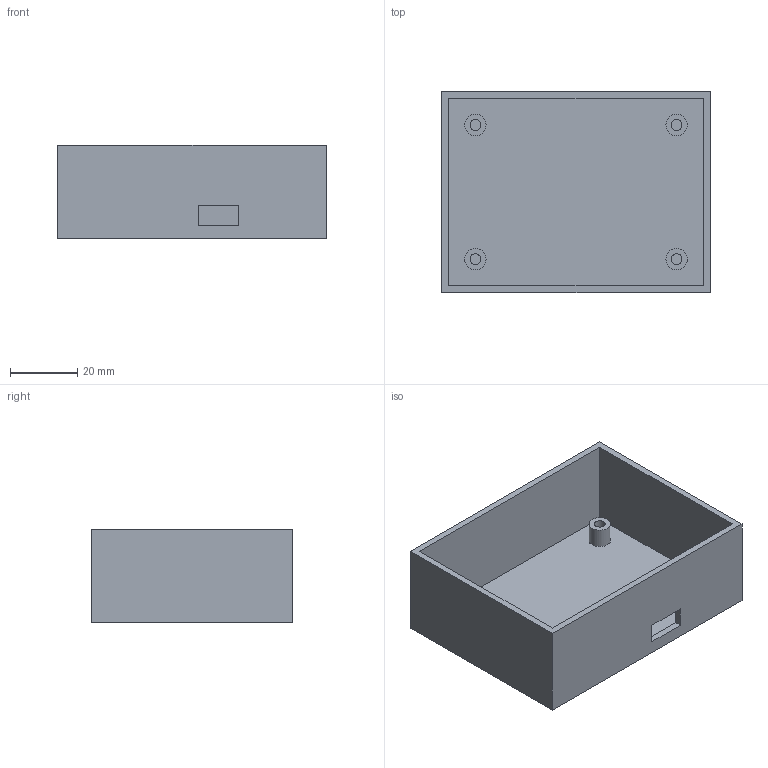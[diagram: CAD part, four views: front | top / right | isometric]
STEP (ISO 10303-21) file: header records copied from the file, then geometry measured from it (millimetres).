
FILE_DESCRIPTION(('Open CASCADE Model'),'2;1');
FILE_NAME('Open CASCADE Shape Model','2026-09-05T12:24:21',('Author'),( 'Open CASCADE'),'Open CASCADE STEP processor 7.8','build123d', 'Unknown');
FILE_SCHEMA(('AUTOMOTIVE_DESIGN { 1 0 10303 214 1 1 1 1 }'));
Length unit declared in the file: millimetre
Products named in the file (1): SOLID
Bounding box: 80 x 60 x 28 mm (x, y, z)
Volume: 24179.1 mm3; surface area: 24955.8 mm2
Topology: 1 solids, 1 shells, 31 faces, 60 edges, 40 vertices
Faces by surface type: plane 23, cylinder 8
Full cylindrical faces by diameter (mm): 3.2 x4, 6.4 x4
Entity records: 1560 total; most frequent: CARTESIAN_POINT 276, DIRECTION 236, LINE 124, VECTOR 124, ORIENTED_EDGE 120, PCURVE 120, DEFINITIONAL_REPRESENTATION 120, EDGE_CURVE 60
